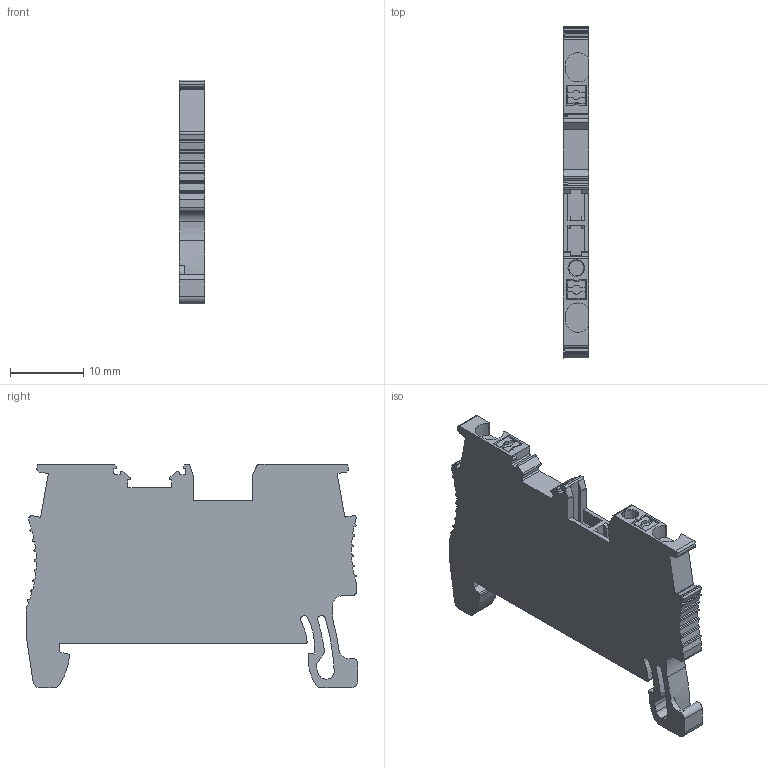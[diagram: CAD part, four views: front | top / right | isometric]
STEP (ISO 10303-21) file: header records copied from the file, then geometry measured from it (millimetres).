
FILE_DESCRIPTION (( 'STEP AP214' ), '1' );
FILE_NAME ('VPR-1.5-GY.STEP', '2026-03-30T14:14:18', ( '' ), ( '' ), 'SwSTEP 2.0', 'SolidWorks 2022', '' );
FILE_SCHEMA (( 'AUTOMOTIVE_DESIGN' ));
Length unit declared in the file: millimetre
Products named in the file (1): VPR-1.5-GY
Bounding box: 3.5 x 45.2 x 30.5 mm (x, y, z)
Volume: 3444 mm3; surface area: 2976.1 mm2
Topology: 1 solids, 1 shells, 335 faces, 955 edges, 625 vertices
Faces by surface type: plane 206, cylinder 125, cone 4
Entity records: 11316 total; most frequent: CARTESIAN_POINT 1994, ORIENTED_EDGE 1910, DIRECTION 1836, EDGE_CURVE 955, VECTOR 680, LINE 680, VERTEX_POINT 625, AXIS2_PLACEMENT_3D 578
